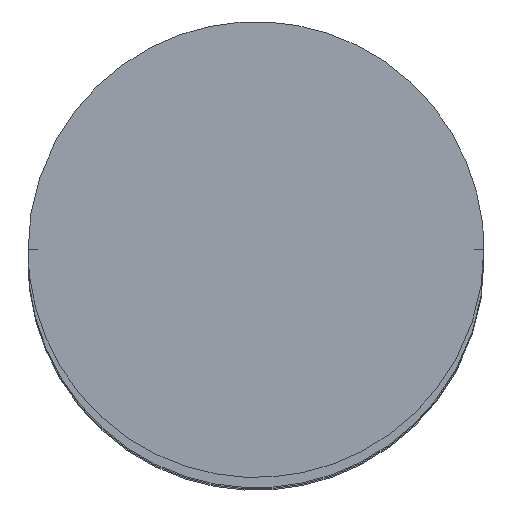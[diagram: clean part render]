
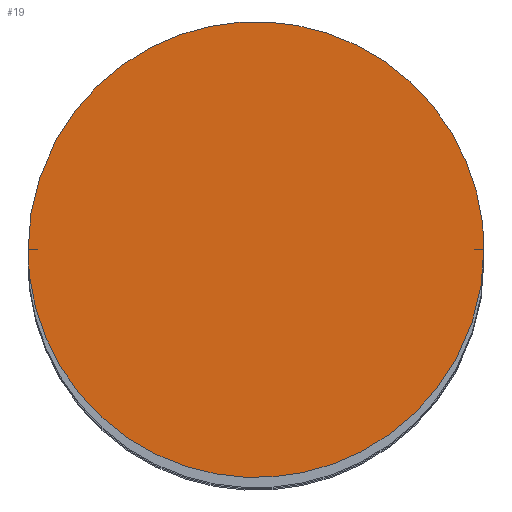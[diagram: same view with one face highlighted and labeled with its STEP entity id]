
A CAD part, top view. The second image highlights one B-rep face of the part: STEP entity #19.
In plain terms, the highlighted planar face has unit normal (0, 0, 1).
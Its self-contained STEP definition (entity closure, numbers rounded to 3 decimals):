
#19=ADVANCED_FACE('',(#36),#224,.T.);
#36=FACE_OUTER_BOUND('',#53,.T.);
#53=EDGE_LOOP('',(#77,#78));
#77=ORIENTED_EDGE('',*,*,#154,.F.);
#78=ORIENTED_EDGE('',*,*,#138,.F.);
#138=EDGE_CURVE('',#201,#213,#169,.T.);
#154=EDGE_CURVE('',#213,#201,#182,.T.);
#169=(
BOUNDED_CURVE()
B_SPLINE_CURVE(2,(#487,#488,#489,#490,#491),.UNSPECIFIED.,.F.,.F.)
B_SPLINE_CURVE_WITH_KNOTS((3,2,3),(-565.487,-424.115,
-282.743),.UNSPECIFIED.)
CURVE()
GEOMETRIC_REPRESENTATION_ITEM()
RATIONAL_B_SPLINE_CURVE((1.,0.707,1.,0.707,1.))
REPRESENTATION_ITEM('')
);
#182=(
BOUNDED_CURVE()
B_SPLINE_CURVE(2,(#556,#557,#558,#559,#560),.UNSPECIFIED.,.F.,.F.)
B_SPLINE_CURVE_WITH_KNOTS((3,2,3),(-282.743,-141.372,
0.),.UNSPECIFIED.)
CURVE()
GEOMETRIC_REPRESENTATION_ITEM()
RATIONAL_B_SPLINE_CURVE((1.,0.707,1.,0.707,1.))
REPRESENTATION_ITEM('')
);
#201=VERTEX_POINT('',#464);
#213=VERTEX_POINT('',#476);
#224=PLANE('',#327);
#327=AXIS2_PLACEMENT_3D('',#357,#337,$);
#337=DIRECTION('',(0.,0.,1.));
#357=CARTESIAN_POINT('',(960.171,58.49,3200.));
#464=CARTESIAN_POINT('',(780.171,-31.51,3200.));
#476=CARTESIAN_POINT('',(960.171,-31.51,3200.));
#487=CARTESIAN_POINT('',(780.171,-31.51,3200.));
#488=CARTESIAN_POINT('',(780.171,58.49,3200.));
#489=CARTESIAN_POINT('',(870.171,58.49,3200.));
#490=CARTESIAN_POINT('',(960.171,58.49,3200.));
#491=CARTESIAN_POINT('',(960.171,-31.51,3200.));
#556=CARTESIAN_POINT('',(960.171,-31.51,3200.));
#557=CARTESIAN_POINT('',(960.171,-121.51,3200.));
#558=CARTESIAN_POINT('',(870.171,-121.51,3200.));
#559=CARTESIAN_POINT('',(780.171,-121.51,3200.));
#560=CARTESIAN_POINT('',(780.171,-31.51,3200.));
